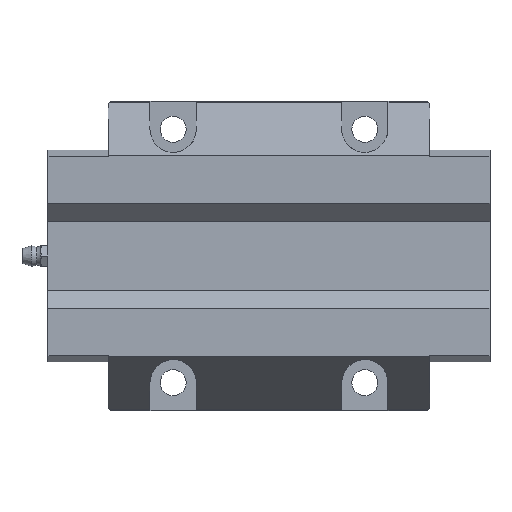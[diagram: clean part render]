
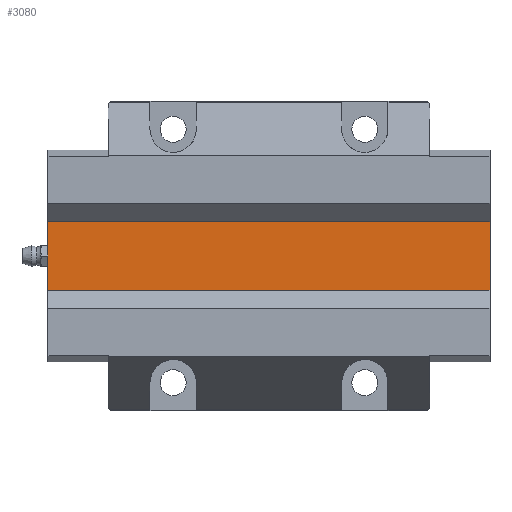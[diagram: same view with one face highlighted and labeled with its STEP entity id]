
A CAD part, front view. The second image highlights one B-rep face of the part: STEP entity #3080.
In plain terms, the highlighted planar face has unit normal (0, -1, 0).
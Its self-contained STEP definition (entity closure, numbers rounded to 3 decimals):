
#817=ORIENTED_EDGE('',*,*,#1222,.F.);
#818=ORIENTED_EDGE('',*,*,#1419,.F.);
#819=ORIENTED_EDGE('',*,*,#1165,.T.);
#820=ORIENTED_EDGE('',*,*,#1420,.T.);
#1165=EDGE_CURVE('',#1585,#1584,#1875,.T.);
#1222=EDGE_CURVE('',#1638,#1639,#1911,.T.);
#1419=EDGE_CURVE('',#1585,#1638,#2077,.T.);
#1420=EDGE_CURVE('',#1584,#1639,#2078,.T.);
#1584=VERTEX_POINT('',#4545);
#1585=VERTEX_POINT('',#4547);
#1638=VERTEX_POINT('',#4657);
#1639=VERTEX_POINT('',#4659);
#1875=LINE('',#4546,#2149);
#1911=LINE('',#4658,#2185);
#2077=LINE('',#5045,#2351);
#2078=LINE('',#5047,#2352);
#2149=VECTOR('',#3618,1000.);
#2185=VECTOR('',#3698,1000.);
#2351=VECTOR('',#4078,1000.);
#2352=VECTOR('',#4081,1000.);
#2485=EDGE_LOOP('',(#817,#818,#819,#820));
#2737=FACE_BOUND('',#2485,.T.);
#2949=PLANE('',#3360);
#3080=ADVANCED_FACE('',(#2737),#2949,.T.);
#3360=AXIS2_PLACEMENT_3D('',#5046,#4079,#4080);
#3618=DIRECTION('',(0.,0.,1.));
#3698=DIRECTION('',(0.,0.,1.));
#4078=DIRECTION('',(-1.,0.,0.));
#4079=DIRECTION('',(0.,-1.,0.));
#4080=DIRECTION('',(0.,0.,-1.));
#4081=DIRECTION('',(-1.,0.,0.));
#4545=CARTESIAN_POINT('',(71.5,24.6,15.97));
#4546=CARTESIAN_POINT('',(71.5,24.6,-15.97));
#4547=CARTESIAN_POINT('',(71.5,24.6,-15.97));
#4657=CARTESIAN_POINT('',(-71.5,24.6,-15.97));
#4658=CARTESIAN_POINT('',(-71.5,24.6,-15.97));
#4659=CARTESIAN_POINT('',(-71.5,24.6,15.97));
#5045=CARTESIAN_POINT('',(71.5,24.6,-15.97));
#5046=CARTESIAN_POINT('',(71.5,24.6,-15.97));
#5047=CARTESIAN_POINT('',(71.5,24.6,15.97));
